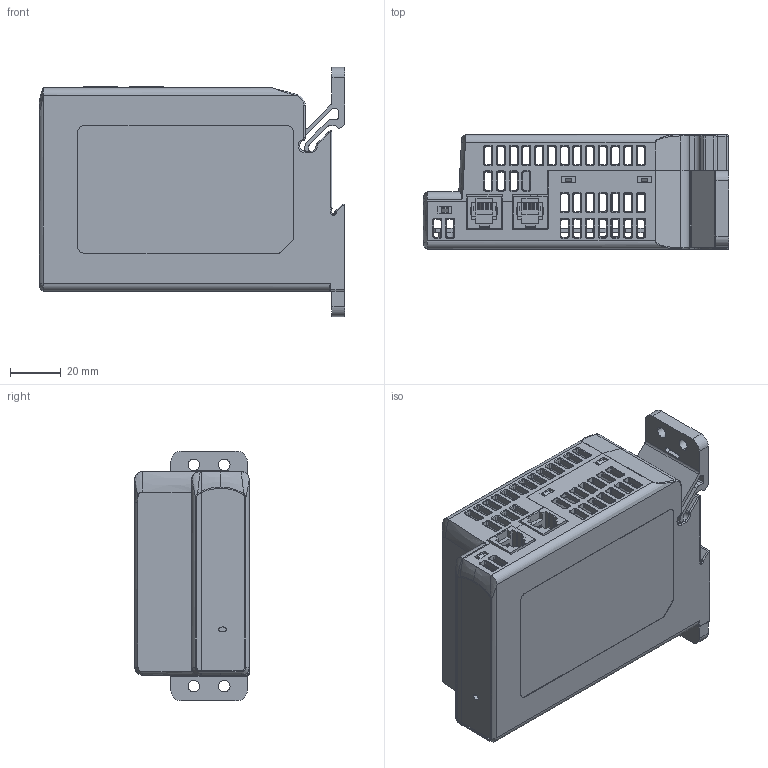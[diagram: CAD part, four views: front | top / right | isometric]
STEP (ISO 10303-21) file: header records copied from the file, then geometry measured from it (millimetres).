
FILE_DESCRIPTION((''),'2;1');
FILE_NAME('10000472963_ASM','2021-10-20T14:42:01',('MSojka'),('Rockwell Automation'),'CREO PARAMETRIC BY PTC INC, 2020281','CREO PARAMETRIC BY PTC INC, 2020281','');
FILE_SCHEMA(('CONFIG_CONTROL_DESIGN'));
Products named in the file (9): 10000472953; 10000472954; 10000472956; 10000472958_ASM; 10000472959; 10000472960; 10000472961_ASM; 10000472962; 10000472963_ASM
Assembly tree (9 placements, depth 4):
  10000472963_ASM
    10000472961_ASM
      10000472958_ASM
        10000472953  x2
        10000472954
        10000472956
      10000472959
      10000472960
    10000472962
Bounding box: 120 x 45 x 98 mm (x, y, z)
Volume: 53503.7 mm3; surface area: 99447.9 mm2
Topology: 5 solids, 6 shells, 3131 faces, 8235 edges, 5161 vertices
Faces by surface type: plane 1571, cylinder 1017, bspline 363, cone 74, sphere 37, extrusion 35, torus 34
Entity records: 115412 total; most frequent: CARTESIAN_POINT 44105, ORIENTED_EDGE 15545, DIRECTION 13345, EDGE_CURVE 7773, VECTOR 5085, LINE 5050, VERTEX_POINT 4877, AXIS2_PLACEMENT_3D 4130
